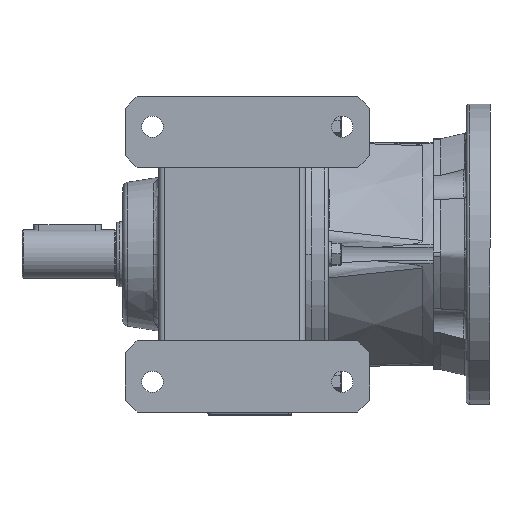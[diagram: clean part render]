
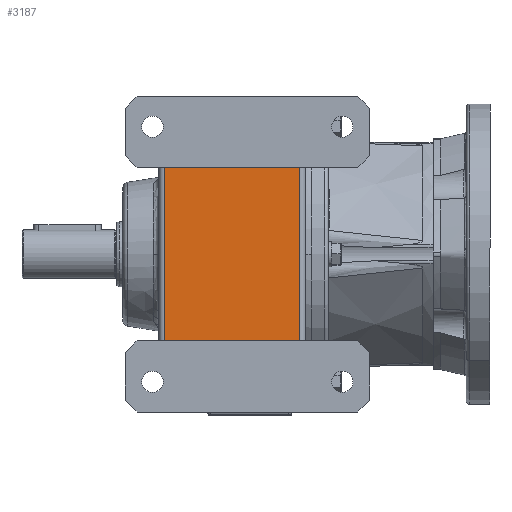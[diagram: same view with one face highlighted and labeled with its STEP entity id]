
A CAD part, front view. The second image highlights one B-rep face of the part: STEP entity #3187.
In plain terms, the highlighted planar face has unit normal (0, -1, 0).
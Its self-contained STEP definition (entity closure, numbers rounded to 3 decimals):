
#520 = CARTESIAN_POINT ( 'NONE',  ( 5., -99., 73. ) ) ;
#521 = CARTESIAN_POINT ( 'NONE',  ( 119., -99., 73. ) ) ;
#522 = CARTESIAN_POINT ( 'NONE',  ( 5., -99., -73. ) ) ;
#523 = CARTESIAN_POINT ( 'NONE',  ( 119., -99., -73. ) ) ;
#3187 = ADVANCED_FACE ( 'NONE', ( #74401 ), #59254, .F. ) ;
#28124 = VECTOR ( 'NONE', #52172, 1000. ) ;
#28126 = VECTOR ( 'NONE', #52178, 1000. ) ;
#28129 = VECTOR ( 'NONE', #52184, 1000. ) ;
#28130 = VECTOR ( 'NONE', #52190, 1000. ) ;
#48486 = EDGE_CURVE ( 'NONE', #53612, #53608, #52170, .T. ) ;
#48488 = EDGE_CURVE ( 'NONE', #53612, #53610, #52176, .T. ) ;
#48490 = EDGE_CURVE ( 'NONE', #53606, #53608, #52182, .T. ) ;
#48492 = EDGE_CURVE ( 'NONE', #53606, #53610, #52188, .T. ) ;
#52170 = LINE ( 'NONE', #52171, #28124 ) ;
#52171 = CARTESIAN_POINT ( 'NONE',  ( 119., -99., 73. ) ) ;
#52172 = DIRECTION ( 'NONE',  ( 0., 0., 1. ) ) ;
#52176 = LINE ( 'NONE', #52177, #28126 ) ;
#52177 = CARTESIAN_POINT ( 'NONE',  ( 160.324, -99., -73. ) ) ;
#52178 = DIRECTION ( 'NONE',  ( -1., 0., 0. ) ) ;
#52182 = LINE ( 'NONE', #52183, #28129 ) ;
#52183 = CARTESIAN_POINT ( 'NONE',  ( 160.324, -99., 73. ) ) ;
#52184 = DIRECTION ( 'NONE',  ( 1., 0., 0. ) ) ;
#52188 = LINE ( 'NONE', #52189, #28130 ) ;
#52189 = CARTESIAN_POINT ( 'NONE',  ( 5., -99., -73. ) ) ;
#52190 = DIRECTION ( 'NONE',  ( 0., 0., -1. ) ) ;
#53606 = VERTEX_POINT ( 'NONE', #520 ) ;
#53608 = VERTEX_POINT ( 'NONE', #521 ) ;
#53610 = VERTEX_POINT ( 'NONE', #522 ) ;
#53612 = VERTEX_POINT ( 'NONE', #523 ) ;
#55199 = EDGE_LOOP ( 'NONE', ( #62426, #62430, #62428, #62432 ) ) ;
#59254 = PLANE ( 'NONE',  #74412 ) ;
#59255 = CARTESIAN_POINT ( 'NONE',  ( 160.324, -99., 133. ) ) ;
#59256 = DIRECTION ( 'NONE',  ( 0., 1., 0. ) ) ;
#59257 = DIRECTION ( 'NONE',  ( 0., 0., 1. ) ) ;
#62426 = ORIENTED_EDGE ( 'NONE', *, *, #48490, .F. ) ;
#62428 = ORIENTED_EDGE ( 'NONE', *, *, #48488, .F. ) ;
#62430 = ORIENTED_EDGE ( 'NONE', *, *, #48492, .T. ) ;
#62432 = ORIENTED_EDGE ( 'NONE', *, *, #48486, .T. ) ;
#74401 = FACE_OUTER_BOUND ( 'NONE', #55199, .T. ) ;
#74412 = AXIS2_PLACEMENT_3D ( 'NONE', #59255, #59256, #59257 ) ;
